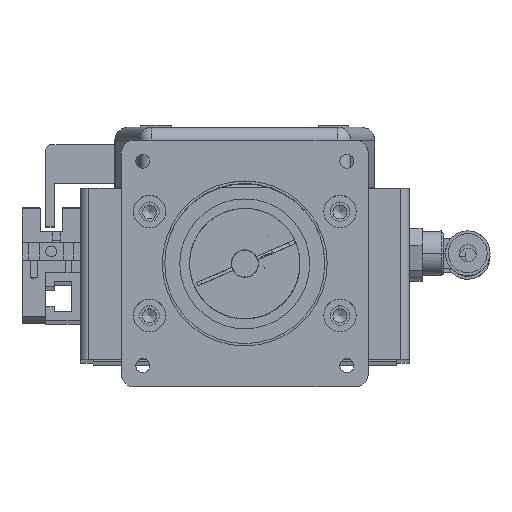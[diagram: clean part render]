
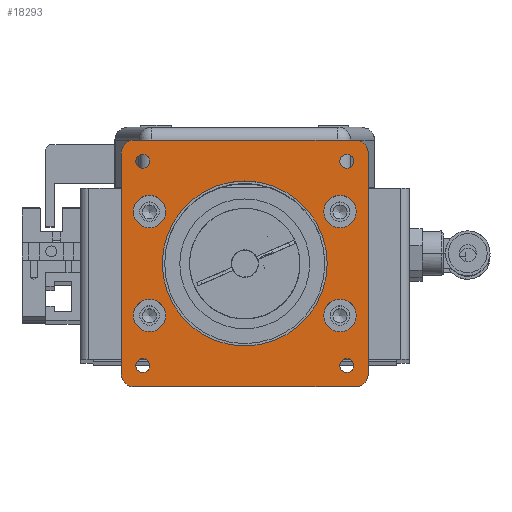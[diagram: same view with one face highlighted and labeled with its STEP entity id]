
A CAD part, top view. The second image highlights one B-rep face of the part: STEP entity #18293.
In plain terms, the highlighted planar face has unit normal (0, 0, 1).
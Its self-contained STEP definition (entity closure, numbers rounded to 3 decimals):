
#17078=CARTESIAN_POINT('',(-25.5,-28.5,12.));
#17079=VERTEX_POINT('',#17078);
#17080=CARTESIAN_POINT('',(-28.5,-25.5,12.));
#17081=VERTEX_POINT('',#17080);
#17082=CARTESIAN_POINT('',(-25.5,-25.5,12.));
#17083=DIRECTION('',(0.0,0.0,-1.));
#17084=DIRECTION('',(-0.707,-0.707,0.0));
#17085=AXIS2_PLACEMENT_3D('',#17082,#17083,#17084);
#17086=CIRCLE('',#17085,3.);
#17087=EDGE_CURVE('',#17079,#17081,#17086,.T.);
#17129=CARTESIAN_POINT('',(25.5,-28.5,12.));
#17130=VERTEX_POINT('',#17129);
#17137=CARTESIAN_POINT('',(25.5,-28.5,12.));
#17138=DIRECTION('',(-1.0,0.0,0.0));
#17139=VECTOR('',#17138,51.);
#17140=LINE('',#17137,#17139);
#17141=EDGE_CURVE('',#17130,#17079,#17140,.T.);
#17214=CARTESIAN_POINT('',(28.5,-25.5,12.));
#17215=VERTEX_POINT('',#17214);
#17216=CARTESIAN_POINT('',(25.5,-25.5,12.));
#17217=DIRECTION('',(0.0,0.0,-1.));
#17218=DIRECTION('',(0.707,-0.707,0.0));
#17219=AXIS2_PLACEMENT_3D('',#17216,#17217,#17218);
#17220=CIRCLE('',#17219,3.);
#17221=EDGE_CURVE('',#17215,#17130,#17220,.T.);
#17257=CARTESIAN_POINT('',(28.5,25.5,12.));
#17258=VERTEX_POINT('',#17257);
#17265=CARTESIAN_POINT('',(28.5,25.5,12.));
#17266=DIRECTION('',(0.0,-1.0,0.0));
#17267=VECTOR('',#17266,51.0);
#17268=LINE('',#17265,#17267);
#17269=EDGE_CURVE('',#17258,#17215,#17268,.T.);
#17279=CARTESIAN_POINT('',(-28.5,25.5,12.));
#17280=VERTEX_POINT('',#17279);
#17281=CARTESIAN_POINT('',(-25.5,28.5,12.));
#17282=VERTEX_POINT('',#17281);
#17283=CARTESIAN_POINT('',(-25.5,25.5,12.));
#17284=DIRECTION('',(0.0,0.0,-1.));
#17285=DIRECTION('',(-0.707,0.707,0.0));
#17286=AXIS2_PLACEMENT_3D('',#17283,#17284,#17285);
#17287=CIRCLE('',#17286,3.);
#17288=EDGE_CURVE('',#17280,#17282,#17287,.T.);
#17314=CARTESIAN_POINT('',(25.5,28.5,12.));
#17315=VERTEX_POINT('',#17314);
#17316=CARTESIAN_POINT('',(-25.5,28.5,12.));
#17317=DIRECTION('',(1.0,0.0,0.0));
#17318=VECTOR('',#17317,51.);
#17319=LINE('',#17316,#17318);
#17320=EDGE_CURVE('',#17282,#17315,#17319,.T.);
#17341=CARTESIAN_POINT('',(25.5,25.5,12.));
#17342=DIRECTION('',(0.0,0.0,-1.0));
#17343=DIRECTION('',(0.707,0.707,0.0));
#17344=AXIS2_PLACEMENT_3D('',#17341,#17342,#17343);
#17345=CIRCLE('',#17344,3.);
#17346=EDGE_CURVE('',#17315,#17258,#17345,.T.);
#17623=CARTESIAN_POINT('',(25.196,-23.575,12.));
#17624=VERTEX_POINT('',#17623);
#17625=CARTESIAN_POINT('',(23.575,-23.575,12.));
#17626=DIRECTION('',(0.0,0.0,-1.0));
#17627=DIRECTION('',(1.0,0.0,0.0));
#17628=AXIS2_PLACEMENT_3D('',#17625,#17626,#17627);
#17629=CIRCLE('',#17628,1.621);
#17630=EDGE_CURVE('',#17624,#17624,#17629,.T.);
#17664=CARTESIAN_POINT('',(-21.954,23.575,12.));
#17665=VERTEX_POINT('',#17664);
#17666=CARTESIAN_POINT('',(-23.575,23.575,12.));
#17667=DIRECTION('',(0.0,0.0,-1.0));
#17668=DIRECTION('',(1.0,0.0,0.0));
#17669=AXIS2_PLACEMENT_3D('',#17666,#17667,#17668);
#17670=CIRCLE('',#17669,1.621);
#17671=EDGE_CURVE('',#17665,#17665,#17670,.T.);
#17705=CARTESIAN_POINT('',(25.196,23.575,12.));
#17706=VERTEX_POINT('',#17705);
#17707=CARTESIAN_POINT('',(23.575,23.575,12.));
#17708=DIRECTION('',(0.0,0.0,-1.0));
#17709=DIRECTION('',(1.0,0.0,0.0));
#17710=AXIS2_PLACEMENT_3D('',#17707,#17708,#17709);
#17711=CIRCLE('',#17710,1.621);
#17712=EDGE_CURVE('',#17706,#17706,#17711,.T.);
#17746=CARTESIAN_POINT('',(-21.954,-23.575,12.));
#17747=VERTEX_POINT('',#17746);
#17748=CARTESIAN_POINT('',(-23.575,-23.575,12.));
#17749=DIRECTION('',(0.0,0.0,-1.0));
#17750=DIRECTION('',(1.0,0.0,0.0));
#17751=AXIS2_PLACEMENT_3D('',#17748,#17749,#17750);
#17752=CIRCLE('',#17751,1.621);
#17753=EDGE_CURVE('',#17747,#17747,#17752,.T.);
#17812=CARTESIAN_POINT('',(25.75,-12.,12.));
#17813=VERTEX_POINT('',#17812);
#17814=CARTESIAN_POINT('',(22.0,-12.,12.));
#17815=DIRECTION('',(0.0,0.0,-1.0));
#17816=DIRECTION('',(1.0,0.0,0.0));
#17817=AXIS2_PLACEMENT_3D('',#17814,#17815,#17816);
#17818=CIRCLE('',#17817,3.75);
#17819=EDGE_CURVE('',#17813,#17813,#17818,.T.);
#17922=CARTESIAN_POINT('',(-18.25,12.,12.));
#17923=VERTEX_POINT('',#17922);
#17924=CARTESIAN_POINT('',(-22.0,12.,12.));
#17925=DIRECTION('',(0.0,0.0,-1.0));
#17926=DIRECTION('',(1.0,0.0,0.0));
#17927=AXIS2_PLACEMENT_3D('',#17924,#17925,#17926);
#17928=CIRCLE('',#17927,3.75);
#17929=EDGE_CURVE('',#17923,#17923,#17928,.T.);
#18032=CARTESIAN_POINT('',(25.75,12.,12.));
#18033=VERTEX_POINT('',#18032);
#18034=CARTESIAN_POINT('',(22.0,12.,12.));
#18035=DIRECTION('',(0.0,0.0,-1.0));
#18036=DIRECTION('',(1.0,0.0,0.0));
#18037=AXIS2_PLACEMENT_3D('',#18034,#18035,#18036);
#18038=CIRCLE('',#18037,3.75);
#18039=EDGE_CURVE('',#18033,#18033,#18038,.T.);
#18142=CARTESIAN_POINT('',(-18.25,-12.,12.));
#18143=VERTEX_POINT('',#18142);
#18144=CARTESIAN_POINT('',(-22.,-12.,12.));
#18145=DIRECTION('',(0.0,0.0,-1.0));
#18146=DIRECTION('',(1.0,0.0,0.0));
#18147=AXIS2_PLACEMENT_3D('',#18144,#18145,#18146);
#18148=CIRCLE('',#18147,3.75);
#18149=EDGE_CURVE('',#18143,#18143,#18148,.T.);
#18214=CARTESIAN_POINT('',(19.05,0.,12.));
#18215=VERTEX_POINT('',#18214);
#18216=CARTESIAN_POINT('',(0.0,0.0,12.));
#18217=DIRECTION('',(0.0,0.0,-1.0));
#18218=DIRECTION('',(-1.0,0.0,0.0));
#18219=AXIS2_PLACEMENT_3D('',#18216,#18217,#18218);
#18220=CIRCLE('',#18219,19.05);
#18221=EDGE_CURVE('',#18215,#18215,#18220,.T.);
#18246=CARTESIAN_POINT('',(0.0,0.,12.));
#18247=DIRECTION('',(0.0,0.0,1.0));
#18248=DIRECTION('',(1.0,0.0,0.0));
#18249=AXIS2_PLACEMENT_3D('',#18246,#18247,#18248);
#18250=PLANE('',#18249);
#18251=ORIENTED_EDGE('',*,*,#17087,.F.);
#18252=ORIENTED_EDGE('',*,*,#17141,.F.);
#18253=ORIENTED_EDGE('',*,*,#17221,.F.);
#18254=ORIENTED_EDGE('',*,*,#17269,.F.);
#18255=ORIENTED_EDGE('',*,*,#17346,.F.);
#18256=ORIENTED_EDGE('',*,*,#17320,.F.);
#18257=ORIENTED_EDGE('',*,*,#17288,.F.);
#18258=CARTESIAN_POINT('',(-28.5,-25.5,12.));
#18259=DIRECTION('',(0.0,1.0,0.0));
#18260=VECTOR('',#18259,51.0);
#18261=LINE('',#18258,#18260);
#18262=EDGE_CURVE('',#17081,#17280,#18261,.T.);
#18263=ORIENTED_EDGE('',*,*,#18262,.F.);
#18264=EDGE_LOOP('',(#18251,#18252,#18253,#18254,#18255,#18256,#18257,#18263));
#18265=FACE_OUTER_BOUND('',#18264,.T.);
#18266=ORIENTED_EDGE('',*,*,#17630,.T.);
#18267=EDGE_LOOP('',(#18266));
#18268=FACE_BOUND('',#18267,.T.);
#18269=ORIENTED_EDGE('',*,*,#17671,.T.);
#18270=EDGE_LOOP('',(#18269));
#18271=FACE_BOUND('',#18270,.T.);
#18272=ORIENTED_EDGE('',*,*,#17712,.T.);
#18273=EDGE_LOOP('',(#18272));
#18274=FACE_BOUND('',#18273,.T.);
#18275=ORIENTED_EDGE('',*,*,#17753,.T.);
#18276=EDGE_LOOP('',(#18275));
#18277=FACE_BOUND('',#18276,.T.);
#18278=ORIENTED_EDGE('',*,*,#17819,.T.);
#18279=EDGE_LOOP('',(#18278));
#18280=FACE_BOUND('',#18279,.T.);
#18281=ORIENTED_EDGE('',*,*,#17929,.T.);
#18282=EDGE_LOOP('',(#18281));
#18283=FACE_BOUND('',#18282,.T.);
#18284=ORIENTED_EDGE('',*,*,#18039,.T.);
#18285=EDGE_LOOP('',(#18284));
#18286=FACE_BOUND('',#18285,.T.);
#18287=ORIENTED_EDGE('',*,*,#18149,.T.);
#18288=EDGE_LOOP('',(#18287));
#18289=FACE_BOUND('',#18288,.T.);
#18290=ORIENTED_EDGE('',*,*,#18221,.T.);
#18291=EDGE_LOOP('',(#18290));
#18292=FACE_BOUND('',#18291,.T.);
#18293=ADVANCED_FACE('',(#18265,#18268,#18271,#18274,#18277,#18280,#18283,#18286,#18289,#18292),#18250,.T.);
